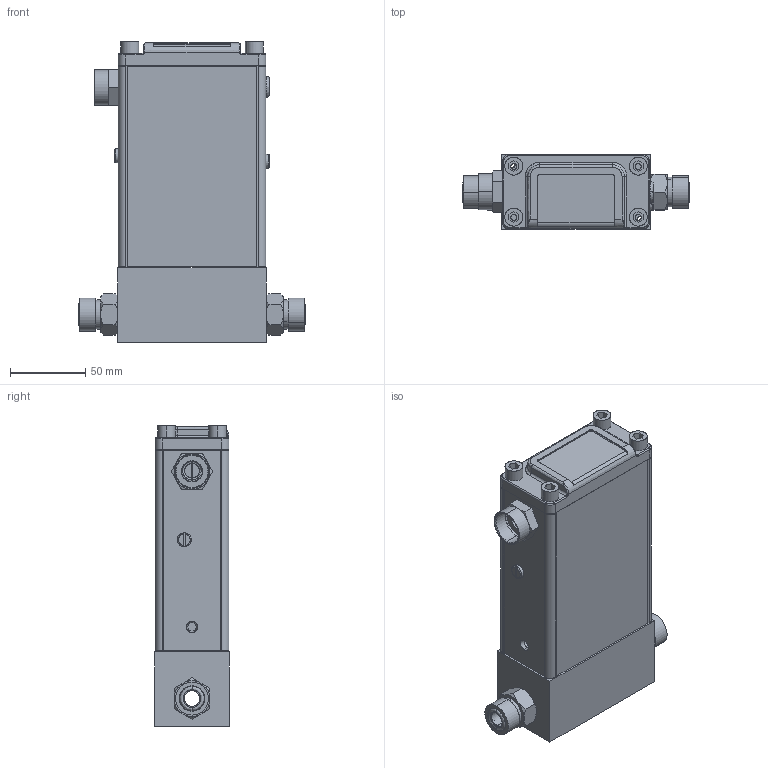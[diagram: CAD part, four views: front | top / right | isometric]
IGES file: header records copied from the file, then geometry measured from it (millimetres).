
Start section: SolidWorks IGES file using analytic representation for surfaces
Global section: file name: G:\Engineering\CAD MODELS FOR SALES\CAD MODEL STORAGE\SLA\SLAMF60\CUSTOMER FILES\IGES\SLAMF60-Q-1M-0-A-REVB.IGS; native system: SolidWorks 2017; preprocessor: SolidWorks 2017; author: JStauffer1; date: 180524.141820; units: inch
Bounding box: 150.52 x 49.5 x 199.98 mm (x, y, z)
Surface area: 88698.7 mm2 (no closed solid volume)
Topology: 0 solids, 0 shells, 413 faces, 4952 edges, 4950 vertices
Faces by surface type: bspline 289, revolution 124
